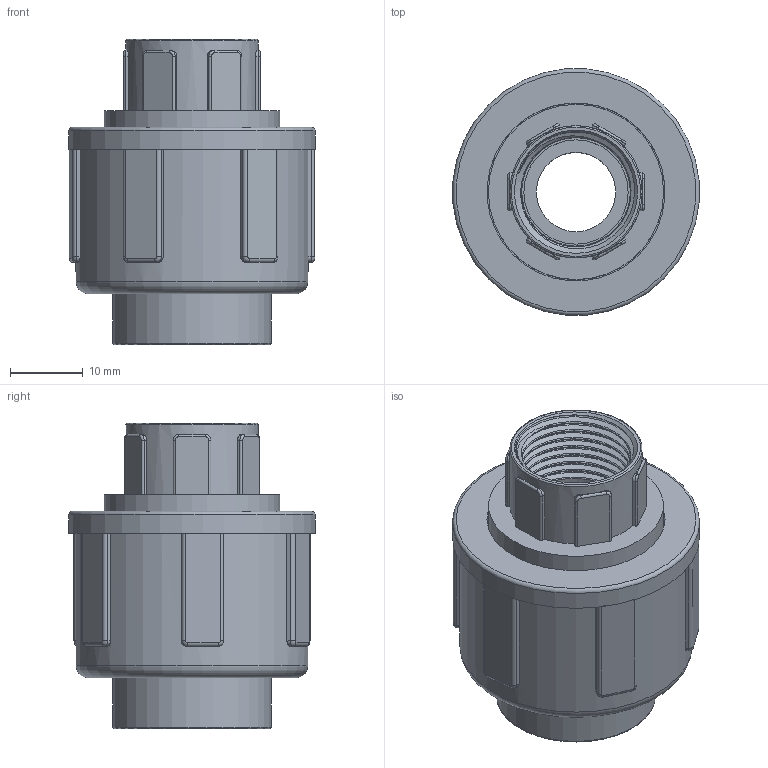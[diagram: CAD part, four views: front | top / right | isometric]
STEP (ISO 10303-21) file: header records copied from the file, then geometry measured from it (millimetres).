
FILE_DESCRIPTION(/* description */ (''),/* implementation_level */ '2;1');
FILE_NAME(/* name */ 'C:\Users\POLYPIPE\Desktop\DATASET INVENTOR\LIBRERIA EFFAST\3D_RACCORDI\RER\3D_RERBOE\3D_RERBOE016A.stp',/* time_stamp */ '2018-01-22T15:55:51+01:00',/* author */ ('POLYPIPE'),/* organization */ (''),/* preprocessor_version */ 'ST-DEVELOPER v16.1',/* originating_system */ 'Autodesk Inventor 2016',/* authorisation */ '');
FILE_SCHEMA (('CONFIG_CONTROL_DESIGN'));
Length unit declared in the file: centimetre
Products named in the file (1): 3D_RERBOE
Bounding box: 33.88 x 33.88 x 42 mm (x, y, z)
Volume: 17995.5 mm3; surface area: 11283.5 mm2
Topology: 1 solids, 1 shells, 176 faces, 437 edges, 274 vertices
Faces by surface type: cylinder 73, plane 63, bspline 22, torus 16, cone 2
Full cylindrical faces by diameter (mm): 10.9 x1, 11.8 x1, 14.35 x1, 14.95 x2, 18.2 x1, 21.9 x1, 22.3 x1, 24 x1, 24.117 x1, 24.5 x1, 32 x1, 34 x1
Entity records: 11586 total; most frequent: CARTESIAN_POINT 7335, DIRECTION 852, ORIENTED_EDGE 824, EDGE_CURVE 412, AXIS2_PLACEMENT_3D 333, VERTEX_POINT 267, EDGE_LOOP 207, LINE 186
